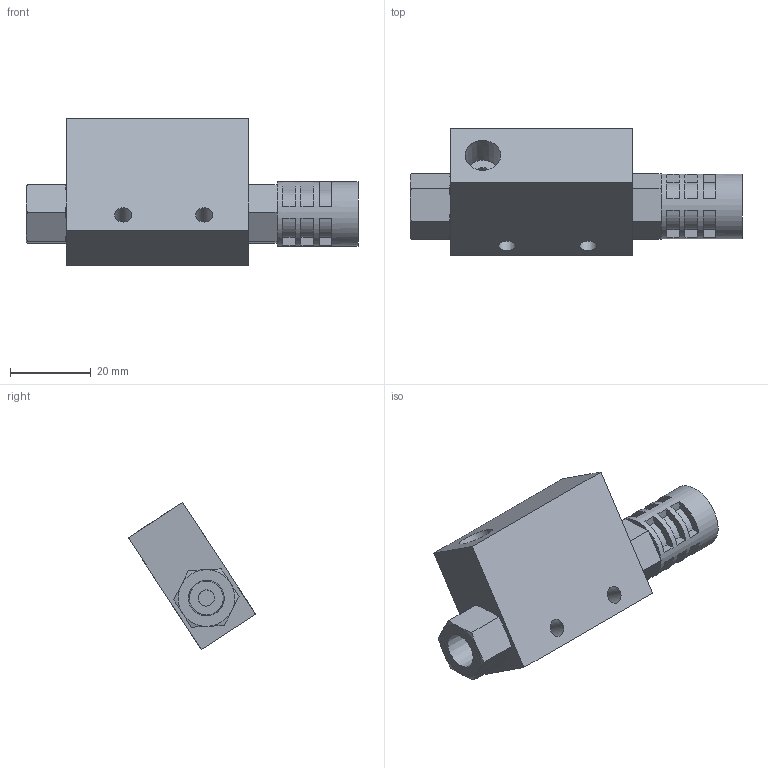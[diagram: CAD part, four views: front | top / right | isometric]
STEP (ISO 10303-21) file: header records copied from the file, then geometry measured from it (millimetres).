
FILE_DESCRIPTION(('STEP AP203'),'1');
FILE_NAME('BCV-05,10HSLN_3D.stp','2024-06-22T05:56:55',(' '),(' '),'Spatial InterOp 3D',' ',' ');
FILE_SCHEMA(('CONFIG_CONTROL_DESIGN'));
Length unit declared in the file: millimetre
Products named in the file (3): BCV-05,10HSNS; BMSS-01-LN
Assembly tree (2 placements, depth 2):
  (unnamed)
    BCV-05,10HSNS
    BMSS-01-LN
Bounding box: 82 x 31.44 x 36.38 mm (x, y, z)
Volume: 27532 mm3; surface area: 10356.5 mm2
Topology: 2 solids, 2 shells, 122 faces, 279 edges, 177 vertices
Faces by surface type: plane 85, cylinder 19, cone 18
Full cylindrical faces by diameter (mm): 4 x2, 4.2 x2, 4.5 x1, 8.797 x1, 16 x1
Entity records: 3498 total; most frequent: CARTESIAN_POINT 617, DIRECTION 582, ORIENTED_EDGE 524, EDGE_CURVE 262, AXIS2_PLACEMENT_3D 219, VERTEX_POINT 174, EDGE_LOOP 160, LINE 144
